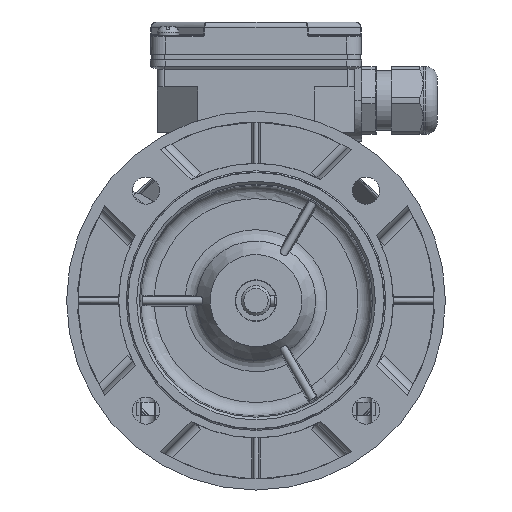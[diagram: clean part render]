
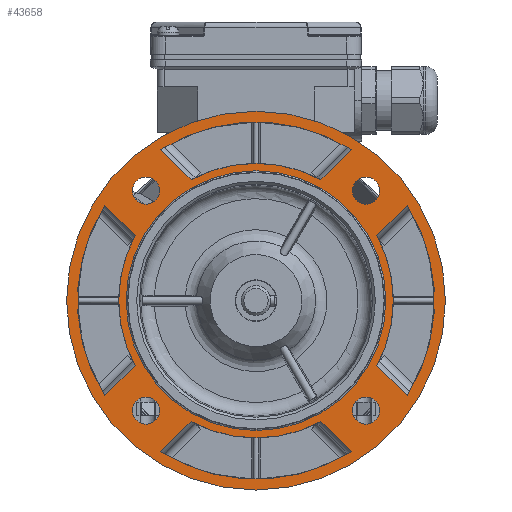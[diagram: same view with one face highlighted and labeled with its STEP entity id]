
A CAD part, left-side view. The second image highlights one B-rep face of the part: STEP entity #43658.
In plain terms, the highlighted planar face has unit normal (-1, 0, 0).
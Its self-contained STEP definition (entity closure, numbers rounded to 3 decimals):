
#2805=CIRCLE('',#46249,70.);
#2806=CIRCLE('',#46252,50.75);
#2807=CIRCLE('',#46255,66.);
#2808=CIRCLE('',#46258,50.75);
#2809=CIRCLE('',#46261,66.);
#2810=CIRCLE('',#46264,50.75);
#2811=CIRCLE('',#46267,66.);
#2812=CIRCLE('',#46270,66.);
#2813=CIRCLE('',#46273,50.75);
#2814=CIRCLE('',#46275,5.);
#2815=CIRCLE('',#46277,5.);
#2816=CIRCLE('',#46279,5.);
#2817=CIRCLE('',#46281,5.);
#2850=CIRCLE('',#46353,48.);
#9600=ORIENTED_EDGE('',*,*,#15775,.F.);
#9601=ORIENTED_EDGE('',*,*,#15774,.F.);
#9602=ORIENTED_EDGE('',*,*,#15773,.F.);
#9603=ORIENTED_EDGE('',*,*,#15772,.F.);
#9604=ORIENTED_EDGE('',*,*,#15771,.T.);
#9605=ORIENTED_EDGE('',*,*,#15770,.F.);
#9606=ORIENTED_EDGE('',*,*,#15767,.F.);
#9607=ORIENTED_EDGE('',*,*,#15766,.T.);
#9608=ORIENTED_EDGE('',*,*,#15763,.F.);
#9609=ORIENTED_EDGE('',*,*,#15762,.T.);
#9610=ORIENTED_EDGE('',*,*,#15759,.T.);
#9611=ORIENTED_EDGE('',*,*,#15757,.F.);
#9612=ORIENTED_EDGE('',*,*,#15755,.F.);
#9613=ORIENTED_EDGE('',*,*,#15754,.T.);
#9614=ORIENTED_EDGE('',*,*,#15751,.T.);
#9615=ORIENTED_EDGE('',*,*,#15749,.F.);
#9616=ORIENTED_EDGE('',*,*,#15747,.F.);
#9617=ORIENTED_EDGE('',*,*,#15746,.T.);
#9618=ORIENTED_EDGE('',*,*,#15743,.T.);
#9619=ORIENTED_EDGE('',*,*,#15741,.F.);
#9620=ORIENTED_EDGE('',*,*,#15739,.T.);
#9621=ORIENTED_EDGE('',*,*,#15855,.T.);
#15739=EDGE_CURVE('',#19394,#19394,#2805,.T.);
#15741=EDGE_CURVE('',#19395,#19396,#22277,.T.);
#15743=EDGE_CURVE('',#19397,#19396,#2806,.T.);
#15746=EDGE_CURVE('',#19398,#19397,#22278,.T.);
#15747=EDGE_CURVE('',#19398,#19395,#2807,.T.);
#15749=EDGE_CURVE('',#19399,#19400,#22279,.T.);
#15751=EDGE_CURVE('',#19401,#19400,#2808,.T.);
#15754=EDGE_CURVE('',#19402,#19401,#22280,.T.);
#15755=EDGE_CURVE('',#19402,#19399,#2809,.T.);
#15757=EDGE_CURVE('',#19403,#19404,#22281,.T.);
#15759=EDGE_CURVE('',#19405,#19404,#2810,.T.);
#15762=EDGE_CURVE('',#19406,#19405,#22282,.T.);
#15763=EDGE_CURVE('',#19406,#19403,#2811,.T.);
#15766=EDGE_CURVE('',#19407,#19408,#22283,.T.);
#15767=EDGE_CURVE('',#19407,#19409,#2812,.T.);
#15770=EDGE_CURVE('',#19409,#19410,#22284,.T.);
#15771=EDGE_CURVE('',#19408,#19410,#2813,.T.);
#15772=EDGE_CURVE('',#19411,#19411,#2814,.T.);
#15773=EDGE_CURVE('',#19412,#19412,#2815,.T.);
#15774=EDGE_CURVE('',#19413,#19413,#2816,.T.);
#15775=EDGE_CURVE('',#19414,#19414,#2817,.T.);
#15855=EDGE_CURVE('',#19477,#19477,#2850,.F.);
#19394=VERTEX_POINT('',#65541);
#19395=VERTEX_POINT('',#65547);
#19396=VERTEX_POINT('',#65549);
#19397=VERTEX_POINT('',#65556);
#19398=VERTEX_POINT('',#65566);
#19399=VERTEX_POINT('',#65575);
#19400=VERTEX_POINT('',#65577);
#19401=VERTEX_POINT('',#65584);
#19402=VERTEX_POINT('',#65594);
#19403=VERTEX_POINT('',#65603);
#19404=VERTEX_POINT('',#65605);
#19405=VERTEX_POINT('',#65612);
#19406=VERTEX_POINT('',#65622);
#19407=VERTEX_POINT('',#65631);
#19408=VERTEX_POINT('',#65636);
#19409=VERTEX_POINT('',#65640);
#19410=VERTEX_POINT('',#65650);
#19411=VERTEX_POINT('',#65656);
#19412=VERTEX_POINT('',#65659);
#19413=VERTEX_POINT('',#65662);
#19414=VERTEX_POINT('',#65665);
#19477=VERTEX_POINT('',#65847);
#22277=LINE('',#65548,#24545);
#22278=LINE('',#65567,#24546);
#22279=LINE('',#65576,#24547);
#22280=LINE('',#65595,#24548);
#22281=LINE('',#65604,#24549);
#22282=LINE('',#65623,#24550);
#22283=LINE('',#65637,#24551);
#22284=LINE('',#65651,#24552);
#24545=VECTOR('',#53251,1000.);
#24546=VECTOR('',#53258,1000.);
#24547=VECTOR('',#53265,1000.);
#24548=VECTOR('',#53272,1000.);
#24549=VECTOR('',#53279,1000.);
#24550=VECTOR('',#53286,1000.);
#24551=VECTOR('',#53293,1000.);
#24552=VECTOR('',#53300,1000.);
#26454=EDGE_LOOP('',(#9600));
#26455=EDGE_LOOP('',(#9601));
#26456=EDGE_LOOP('',(#9602));
#26457=EDGE_LOOP('',(#9603));
#26458=EDGE_LOOP('',(#9604,#9605,#9606,#9607));
#26459=EDGE_LOOP('',(#9608,#9609,#9610,#9611));
#26460=EDGE_LOOP('',(#9612,#9613,#9614,#9615));
#26461=EDGE_LOOP('',(#9616,#9617,#9618,#9619));
#26462=EDGE_LOOP('',(#9620));
#26463=EDGE_LOOP('',(#9621));
#28592=FACE_BOUND('',#26454,.T.);
#28593=FACE_BOUND('',#26455,.T.);
#28594=FACE_BOUND('',#26456,.T.);
#28595=FACE_BOUND('',#26457,.T.);
#28596=FACE_BOUND('',#26458,.T.);
#28597=FACE_BOUND('',#26459,.T.);
#28598=FACE_BOUND('',#26460,.T.);
#28599=FACE_BOUND('',#26461,.T.);
#28600=FACE_BOUND('',#26462,.T.);
#28601=FACE_BOUND('',#26463,.T.);
#29957=PLANE('',#46352);
#43658=ADVANCED_FACE('',(#28592,#28593,#28594,#28595,#28596,#28597,#28598,
#28599,#28600,#28601),#29957,.T.);
#46249=AXIS2_PLACEMENT_3D('',#65540,#53247,#53248);
#46252=AXIS2_PLACEMENT_3D('',#65555,#53254,#53255);
#46255=AXIS2_PLACEMENT_3D('',#65569,#53261,#53262);
#46258=AXIS2_PLACEMENT_3D('',#65583,#53268,#53269);
#46261=AXIS2_PLACEMENT_3D('',#65597,#53275,#53276);
#46264=AXIS2_PLACEMENT_3D('',#65611,#53282,#53283);
#46267=AXIS2_PLACEMENT_3D('',#65625,#53289,#53290);
#46270=AXIS2_PLACEMENT_3D('',#65639,#53296,#53297);
#46273=AXIS2_PLACEMENT_3D('',#65653,#53303,#53304);
#46275=AXIS2_PLACEMENT_3D('',#65655,#53307,#53308);
#46277=AXIS2_PLACEMENT_3D('',#65658,#53311,#53312);
#46279=AXIS2_PLACEMENT_3D('',#65661,#53315,#53316);
#46281=AXIS2_PLACEMENT_3D('',#65664,#53319,#53320);
#46352=AXIS2_PLACEMENT_3D('',#65845,#53508,#53509);
#46353=AXIS2_PLACEMENT_3D('',#65846,#53510,#53511);
#53247=DIRECTION('',(-1.,0.,0.));
#53248=DIRECTION('',(0.,-1.,0.));
#53251=DIRECTION('',(0.,0.707,0.707));
#53254=DIRECTION('',(-1.,0.,0.));
#53255=DIRECTION('',(0.,-1.,0.));
#53258=DIRECTION('',(0.,-0.707,0.707));
#53261=DIRECTION('',(-1.,0.,0.));
#53262=DIRECTION('',(0.,-1.,0.));
#53265=DIRECTION('',(0.,-0.707,0.707));
#53268=DIRECTION('',(-1.,0.,0.));
#53269=DIRECTION('',(0.,-1.,0.));
#53272=DIRECTION('',(0.,-0.707,-0.707));
#53275=DIRECTION('',(-1.,0.,0.));
#53276=DIRECTION('',(0.,-1.,0.));
#53279=DIRECTION('',(0.,-0.707,-0.707));
#53282=DIRECTION('',(-1.,0.,0.));
#53283=DIRECTION('',(0.,-1.,0.));
#53286=DIRECTION('',(0.,0.707,-0.707));
#53289=DIRECTION('',(-1.,0.,0.));
#53290=DIRECTION('',(0.,-1.,0.));
#53293=DIRECTION('',(0.,0.707,0.707));
#53296=DIRECTION('',(-1.,0.,0.));
#53297=DIRECTION('',(0.,-1.,0.));
#53300=DIRECTION('',(0.,0.707,-0.707));
#53303=DIRECTION('',(-1.,0.,0.));
#53304=DIRECTION('',(0.,-1.,0.));
#53307=DIRECTION('',(-1.,0.,0.));
#53308=DIRECTION('',(0.,-1.,0.));
#53311=DIRECTION('',(-1.,0.,0.));
#53312=DIRECTION('',(0.,0.,-1.));
#53315=DIRECTION('',(-1.,0.,0.));
#53316=DIRECTION('',(0.,1.,0.));
#53319=DIRECTION('',(-1.,0.,0.));
#53320=DIRECTION('',(0.,0.,1.));
#53508=DIRECTION('',(-1.,0.,0.));
#53509=DIRECTION('',(0.,-1.,0.));
#53510=DIRECTION('',(-1.,0.,0.));
#53511=DIRECTION('',(0.,-1.,0.));
#65540=CARTESIAN_POINT('',(-77.,0.,0.));
#65541=CARTESIAN_POINT('',(-77.,-70.,0.));
#65547=CARTESIAN_POINT('',(-77.,-35.168,-55.85));
#65548=CARTESIAN_POINT('',(-77.,-41.278,-61.959));
#65549=CARTESIAN_POINT('',(-77.,-24.023,-44.704));
#65555=CARTESIAN_POINT('',(-77.,0.,0.));
#65556=CARTESIAN_POINT('',(-77.,24.023,-44.704));
#65566=CARTESIAN_POINT('',(-77.,35.168,-55.85));
#65567=CARTESIAN_POINT('',(-77.,41.278,-61.959));
#65569=CARTESIAN_POINT('',(-77.,0.,0.));
#65575=CARTESIAN_POINT('',(-77.,55.85,-35.168));
#65576=CARTESIAN_POINT('',(-77.,61.959,-41.278));
#65577=CARTESIAN_POINT('',(-77.,44.704,-24.023));
#65583=CARTESIAN_POINT('',(-77.,0.,0.));
#65584=CARTESIAN_POINT('',(-77.,44.704,24.023));
#65594=CARTESIAN_POINT('',(-77.,55.85,35.168));
#65595=CARTESIAN_POINT('',(-77.,61.959,41.278));
#65597=CARTESIAN_POINT('',(-77.,0.,0.));
#65603=CARTESIAN_POINT('',(-77.,35.168,55.85));
#65604=CARTESIAN_POINT('',(-77.,41.278,61.959));
#65605=CARTESIAN_POINT('',(-77.,24.023,44.704));
#65611=CARTESIAN_POINT('',(-77.,0.,0.));
#65612=CARTESIAN_POINT('',(-77.,-24.023,44.704));
#65622=CARTESIAN_POINT('',(-77.,-35.168,55.85));
#65623=CARTESIAN_POINT('',(-77.,-41.278,61.959));
#65625=CARTESIAN_POINT('',(-77.,0.,0.));
#65631=CARTESIAN_POINT('',(-77.,-55.85,-35.168));
#65636=CARTESIAN_POINT('',(-77.,-44.704,-24.023));
#65637=CARTESIAN_POINT('',(-77.,-61.959,-41.278));
#65639=CARTESIAN_POINT('',(-77.,0.,0.));
#65640=CARTESIAN_POINT('',(-77.,-55.85,35.168));
#65650=CARTESIAN_POINT('',(-77.,-44.704,24.023));
#65651=CARTESIAN_POINT('',(-77.,-61.959,41.278));
#65653=CARTESIAN_POINT('',(-77.,0.,0.));
#65655=CARTESIAN_POINT('',(-77.,-40.659,40.659));
#65656=CARTESIAN_POINT('',(-77.,-45.659,40.659));
#65658=CARTESIAN_POINT('',(-77.,-40.659,-40.659));
#65659=CARTESIAN_POINT('',(-77.,-40.659,-45.659));
#65661=CARTESIAN_POINT('',(-77.,40.659,-40.659));
#65662=CARTESIAN_POINT('',(-77.,45.659,-40.659));
#65664=CARTESIAN_POINT('',(-77.,40.659,40.659));
#65665=CARTESIAN_POINT('',(-77.,40.659,45.659));
#65845=CARTESIAN_POINT('',(-77.,47.5,0.));
#65846=CARTESIAN_POINT('',(-77.,0.,0.));
#65847=CARTESIAN_POINT('',(-77.,-48.,0.));
